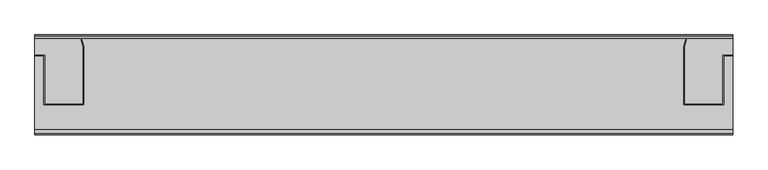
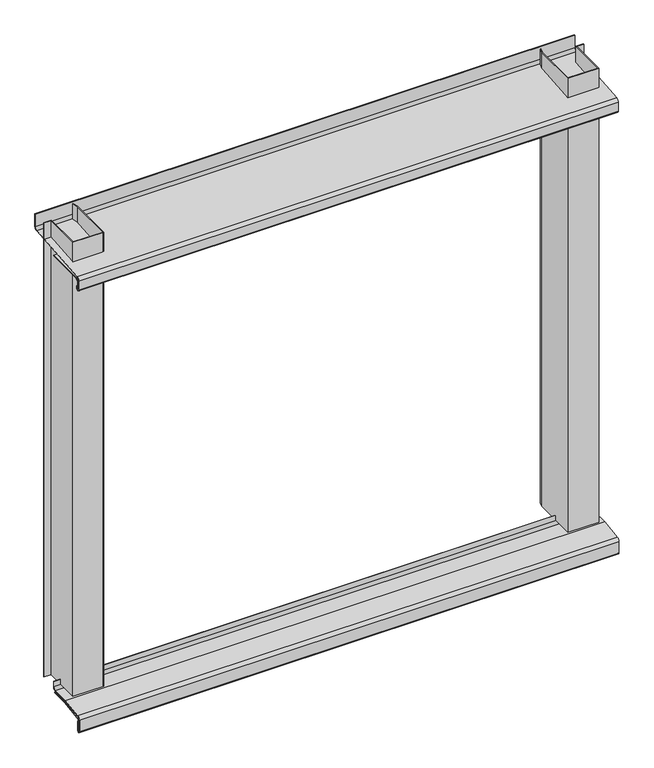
"""IFC4 building model written with IfcOpenShell, lengths in millimetres: plate geometry, Entourage de baie Horizontal : Entourage de baie Horizontal."""

import ifcopenshell
import ifcopenshell.guid

model = None  # the IFC model being written
_history = None  # IfcOwnerHistory: only IFC2X3 demands one
_inside = {}  # id of a spatial element -> (the spatial element, [elements in it])
_under = {}  # id of a project, library or spatial element -> (it, [spatial elements below it])
_declared = {}  # id of a project -> (the project, [libraries it declares])
_typed = {}  # id of a type object -> (the type object, [elements of that type])
_made_of = {}  # id of a material, layer set ... -> (it, [elements and type objects made of it])


def new_model(schema):
    """Start an empty IFC model of exactly this schema.

    Asked for "IFC4X3", IfcOpenShell would pick the latest addendum, in which some entities
    have other attributes; the version numbers below select the first issue.
    IFC2X3 requires an IfcOwnerHistory on every rooted entity: one is made here for all.
    """
    global model, _history
    if schema == "IFC4X3":
        model = ifcopenshell.file(schema_version=(4, 3, 0, 0))
    else:
        model = ifcopenshell.file(schema=schema)
    _inside.clear()
    _under.clear()
    _declared.clear()
    _typed.clear()
    _made_of.clear()
    _history = None
    if model.schema == "IFC2X3":
        org = make("IfcOrganization", Name="unknown")
        user = make(
            "IfcPersonAndOrganization",
            ThePerson=make("IfcPerson", FamilyName="unknown"),
            TheOrganization=org,
        )
        app = make(
            "IfcApplication",
            ApplicationDeveloper=org,
            Version="unknown",
            ApplicationFullName="unknown",
            ApplicationIdentifier="unknown",
        )
        _history = make(
            "IfcOwnerHistory",
            OwningUser=user,
            OwningApplication=app,
            ChangeAction="ADDED",
            CreationDate=0,
        )
    return model


def make(cls, **values):
    """One entity of the class cls with the attributes given. An attribute that is None is left unset."""
    return model.create_entity(
        cls, **{name: value for name, value in values.items() if value is not None}
    )


def rooted(cls, **values):
    """An entity with a GlobalId (a new one), such as an element, a storey or a relation."""
    return make(cls, GlobalId=ifcopenshell.guid.new(), OwnerHistory=_history, **values)


def si_unit(unit_type, name, prefix=None):
    """IfcSIUnit, for example si_unit("LENGTHUNIT", "METRE", prefix="MILLI")."""
    return make("IfcSIUnit", UnitType=unit_type, Prefix=prefix, Name=name)


def assignment(units):
    """IfcUnitAssignment: the units of a project."""
    return None if units is None else make("IfcUnitAssignment", Units=units)


def point(xyz):
    """IfcCartesianPoint."""
    return None if xyz is None else make("IfcCartesianPoint", Coordinates=xyz)


def direction(xyz):
    """IfcDirection."""
    return None if xyz is None else make("IfcDirection", DirectionRatios=xyz)


def frame(location, z_axis=None, x_axis=None):
    """IfcAxis2Placement3D, a coordinate frame: its origin and axes. An axis left out is left unset."""
    return make(
        "IfcAxis2Placement3D",
        Location=point(location),
        Axis=direction(z_axis),
        RefDirection=direction(x_axis),
    )


def frame_2d(location, x_axis=None):
    """IfcAxis2Placement2D, a coordinate frame in the plane: its origin and x axis."""
    return make(
        "IfcAxis2Placement2D", Location=point(location), RefDirection=direction(x_axis)
    )


def origin():
    """The frame at (0, 0, 0) with its axes left unset."""
    return frame((0.0, 0.0, 0.0))


def place(relative_to, where):
    """IfcLocalPlacement: puts the frame where relative to a parent placement (None: the world)."""
    return make(
        "IfcLocalPlacement", PlacementRelTo=relative_to, RelativePlacement=where
    )


def context(
    kind, dimensions, precision=None, world=None, true_north=None, identifier=None
):
    """IfcGeometricRepresentationContext, for example the 3D "Model" context."""
    return make(
        "IfcGeometricRepresentationContext",
        ContextIdentifier=identifier,
        ContextType=kind,
        CoordinateSpaceDimension=dimensions,
        Precision=precision,
        WorldCoordinateSystem=world,
        TrueNorth=true_north,
    )


def project(units=None, contexts=None):
    """IfcProject with its units and contexts."""
    return rooted(
        "IfcProject",
        Name="project",
        RepresentationContexts=contexts,
        UnitsInContext=assignment(units),
    )


def spatial(cls, under=None, at=None, **own):
    """A site, building, storey or space (cls), placed at a placement, below another one or the project."""
    s = rooted(cls, ObjectPlacement=at, **own)
    if under is not None:
        _under.setdefault(under.id(), (under, []))[1].append(s)
    return s


def polyline(points):
    """IfcPolyline through the points."""
    return make("IfcPolyline", Points=[point(p) for p in points])


def circle_curve(where, radius):
    """IfcCircle in the frame where."""
    return make("IfcCircle", Position=where, Radius=radius)


def trimmed(basis, trim1, trim2, sense, master):
    """IfcTrimmedCurve: the piece of a basis curve between two trims."""
    return make(
        "IfcTrimmedCurve",
        BasisCurve=basis,
        Trim1=trim1,
        Trim2=trim2,
        SenseAgreement=sense,
        MasterRepresentation=master,
    )


def segment(curve, same_sense, transition):
    """IfcCompositeCurveSegment."""
    return make(
        "IfcCompositeCurveSegment",
        Transition=transition,
        SameSense=same_sense,
        ParentCurve=curve,
    )


def composite_curve(segments, self_intersect=None):
    """IfcCompositeCurve: segments joined end to end."""
    return make("IfcCompositeCurve", Segments=segments, SelfIntersect=self_intersect)


def outline(outer, holes=None, kind="AREA"):
    """IfcArbitraryClosedProfileDef: a profile drawn as a closed curve; with holes, ...WithVoids."""
    if holes is None:
        return make("IfcArbitraryClosedProfileDef", ProfileType=kind, OuterCurve=outer)
    return make(
        "IfcArbitraryProfileDefWithVoids",
        ProfileType=kind,
        OuterCurve=outer,
        InnerCurves=holes,
    )


def extrude(swept, where, along, depth):
    """IfcExtrudedAreaSolid: the profile swept, set in the frame where, extruded along a direction by depth."""
    return make(
        "IfcExtrudedAreaSolid",
        SweptArea=swept,
        Position=where,
        ExtrudedDirection=direction(along),
        Depth=depth,
    )


def shape(context_of_items, identifier, shape_type, items):
    """IfcShapeRepresentation: the items that make up one representation, for example the "Body"."""
    return make(
        "IfcShapeRepresentation",
        ContextOfItems=context_of_items,
        RepresentationIdentifier=identifier,
        RepresentationType=shape_type,
        Items=items,
    )


def source(mapping_origin, context_of_items, identifier, shape_type, items):
    """IfcRepresentationMap: a shape defined once, which mapped items show again and again."""
    return make(
        "IfcRepresentationMap",
        MappingOrigin=mapping_origin,
        MappedRepresentation=shape(context_of_items, identifier, shape_type, items),
    )


def transform(
    local_origin,
    x_axis=None,
    y_axis=None,
    z_axis=None,
    scale=None,
    scale2=None,
    scale3=None,
    uniform=True,
):
    """IfcCartesianTransformationOperator3D, or its non-uniform kind. x_axis, y_axis, z_axis: its Axis1, 2, 3."""
    if uniform:
        return make(
            "IfcCartesianTransformationOperator3D",
            Axis1=direction(x_axis),
            Axis2=direction(y_axis),
            LocalOrigin=point(local_origin),
            Scale=scale,
            Axis3=direction(z_axis),
        )
    return make(
        "IfcCartesianTransformationOperator3DnonUniform",
        Axis1=direction(x_axis),
        Axis2=direction(y_axis),
        LocalOrigin=point(local_origin),
        Scale=scale,
        Axis3=direction(z_axis),
        Scale2=scale2,
        Scale3=scale3,
    )


def mapped(mapping_source, mapping_target):
    """IfcMappedItem: shows the shape of a source again, moved by a transform."""
    return make(
        "IfcMappedItem", MappingSource=mapping_source, MappingTarget=mapping_target
    )


def made_of(thing, what):
    """Note that an element or type object is made of a material, layer set ...; save() writes the relation."""
    if what is not None:
        _made_of.setdefault(what.id(), (what, []))[1].append(thing)
    return thing


def element(
    cls,
    number,
    at=None,
    inside=None,
    cuts=None,
    type_object=None,
    material=None,
    context=None,
    identifier="Body",
    shape_type=None,
    held_by="IfcProductDefinitionShape",
    body=None,
    shapes=None,
    **own,
):
    """One element of the class cls, such as IfcWall. Its Tag is "e" and its number.

    at: its placement. inside: the storey or other place that contains it. cuts: it is an
    opening in that element (IfcRelVoidsElement). A single representation is given by context,
    identifier, shape_type and body (its items); several are given by shapes. held_by: the class
    of the entity that holds the representations. save() writes the other relations.
    """
    e = rooted(cls, Tag="e%d" % number, ObjectPlacement=at, **own)
    if body is not None:
        shapes = [shape(context, identifier, shape_type, body)]
    if shapes is not None:
        e.Representation = make(held_by, Representations=shapes)
    if inside is not None:
        _inside.setdefault(inside.id(), (inside, []))[1].append(e)
    if cuts is not None:
        rooted(
            "IfcRelVoidsElement", RelatingBuildingElement=cuts, RelatedOpeningElement=e
        )
    if type_object is not None:
        _typed.setdefault(type_object.id(), (type_object, []))[1].append(e)
    return made_of(e, material)


def aggregate(whole, parts):
    """IfcRelAggregates: a whole, such as a stair, and the parts it consists of."""
    return rooted("IfcRelAggregates", RelatingObject=whole, RelatedObjects=parts)


def save(model, path):
    """Write the relations noted so far, then the file.

    IfcRelAggregates (storeys below a building ...), IfcRelContainedInSpatialStructure (elements
    in a storey), IfcRelDefinesByType, IfcRelAssociatesMaterial and IfcRelDeclares: one each for
    every whole, place, type object, material and project.
    """
    for whole, parts in _under.values():
        aggregate(whole, parts)
    for where, things in _inside.values():
        rooted(
            "IfcRelContainedInSpatialStructure",
            RelatedElements=things,
            RelatingStructure=where,
        )
    for kind, things in _typed.values():
        rooted("IfcRelDefinesByType", RelatedObjects=things, RelatingType=kind)
    for what, things in _made_of.values():
        rooted("IfcRelAssociatesMaterial", RelatedObjects=things, RelatingMaterial=what)
    for by, libraries in _declared.values():
        rooted("IfcRelDeclares", RelatingContext=by, RelatedDefinitions=libraries)
    model.write(path)


def plate_fa6cf1e6(model_context):
    return source(origin(), model_context, "Body", "SweptSolid", [
        extrude(outline(polyline([(430.0, 52.8408481), (432.6384309, 62.6876064), (433.6043568, 62.4287873), (431.0, 52.7091956), (431.0, -29.6803649), (486.2054608, -29.6803649), (486.2054608, 40.3366757), (500.0, 40.3366757), (499.7838213, 39.3196351), (487.2054608, 39.3196351), (487.2054608, -30.6803649), (430.0, -30.6803649), (430.0, 52.8408481)])), frame((0.0, 0.0, 11.2376633), z_axis=(0.0, 0.0, 1.0), x_axis=(1.0, 0.0, 0.0)), (0.0, 0.0, 1.0), 888.7623367),
        extrude(outline(polyline([(-430.0, 52.8408481), (-430.0, -30.6803649), (-487.2054608, -30.6803649), (-487.2054608, 39.3196351), (-499.7838213, 39.3196351), (-500.0, 40.3366757), (-486.2054608, 40.3366757), (-486.2054608, -29.6803649), (-431.0, -29.6803649), (-431.0, 52.7091956), (-433.6043568, 62.4287873), (-432.6384309, 62.6876064), (-430.0, 52.8408481)])), frame((0.0, 0.0, 11.0084951), z_axis=(0.0, 0.0, 1.0), x_axis=(1.0, 0.0, 0.0)), (0.0, 0.0, 1.0), 888.9915049),
        extrude(outline(composite_curve([segment(polyline([(-66.1651393, 859.1089935), (63.7554138, 870.475569)]), True, "CONTINUOUS"), segment(trimmed(circle_curve(frame_2d((63.3196351, 875.4565425)), 5.0), [point((63.7554138, 870.475569))], [point((68.3196351, 875.4565425))], True, "CARTESIAN"), True, "CONTINUOUS"), segment(polyline([(68.3196351, 875.4565425), (68.3196351, 900.0), (69.3196351, 900.0), (69.3196351, 875.2274597)]), True, "CONTINUOUS"), segment(trimmed(circle_curve(frame_2d((63.5696351, 875.2274597)), 5.75), [point((69.3196351, 875.2274597))], [point((64.0707806, 869.4993402))], False, "CARTESIAN"), True, "CONTINUOUS"), segment(polyline([(64.0707806, 869.4993402), (-65.8497725, 858.1327646)]), True, "CONTINUOUS"), segment(trimmed(circle_curve(frame_2d((-65.4139938, 853.1517912)), 5.0), [point((-65.8497725, 858.1327646))], [point((-70.4139938, 853.1517912))], True, "CARTESIAN"), True, "CONTINUOUS"), segment(polyline([(-70.4139938, 853.1517912), (-70.4139938, 835.9175452)]), True, "CONTINUOUS"), segment(trimmed(circle_curve(frame_2d((-68.4139938, 835.9175452)), 2.0), [point((-70.4139938, 835.9175452))], [point((-66.4139938, 835.9175452))], True, "CARTESIAN"), True, "CONTINUOUS"), segment(polyline([(-66.4139938, 835.9175452), (-66.4139938, 840.9175452), (-65.4139938, 840.9175452), (-65.4139938, 835.9175452)]), True, "CONTINUOUS"), segment(trimmed(circle_curve(frame_2d((-68.4139938, 835.9175452)), 3.0), [point((-65.4139938, 835.9175452))], [point((-71.4139938, 835.9175452))], False, "CARTESIAN"), True, "CONTINUOUS"), segment(polyline([(-71.4139938, 835.9175452), (-71.4139938, 853.3808739)]), True, "CONTINUOUS"), segment(trimmed(circle_curve(frame_2d((-65.6639938, 853.3808739)), 5.75), [point((-71.4139938, 853.3808739))], [point((-66.1651393, 859.1089935))], False, "CARTESIAN"), True, "CONTINUOUS")], self_intersect=False)), frame((-500.0, 0.0, 0.0), z_axis=(1.0, 0.0, 0.0), x_axis=(0.0, 1.0, 0.0)), (0.0, 0.0, 1.0), 1000.0),
        extrude(outline(composite_curve([segment(polyline([(-63.1639938, 854.8366451), (9.3196351, 854.8366451), (9.3196351, 853.8366451), (-62.9139938, 853.8366451)]), True, "CONTINUOUS"), segment(trimmed(circle_curve(frame_2d((-62.9139938, 848.8366451)), 5.0), [point((-62.9139938, 853.8366451))], [point((-67.9139938, 848.8366451))], True, "CARTESIAN"), True, "CONTINUOUS"), segment(polyline([(-67.9139938, 848.8366451), (-67.9139938, 838.8366451), (-68.9139938, 838.8366451), (-68.9139938, 849.0866451)]), True, "CONTINUOUS"), segment(trimmed(circle_curve(frame_2d((-63.1639938, 849.0866451)), 5.75), [point((-68.9139938, 849.0866451))], [point((-63.1639938, 854.8366451))], False, "CARTESIAN"), True, "CONTINUOUS")], self_intersect=False)), frame((-500.0, 0.0, 0.0), z_axis=(1.0, 0.0, 0.0), x_axis=(0.0, 1.0, 0.0)), (0.0, 0.0, 1.0), 1000.0),
        extrude(outline(composite_curve([segment(polyline([(3.5696351, 4.6075528), (-26.5969984, 4.6075528), (-68.4122928, -0.6347478)]), True, "CONTINUOUS"), segment(trimmed(circle_curve(frame_2d((-67.7903215, -5.5959122)), 5.0), [point((-68.4122928, -0.6347478))], [point((-72.7903215, -5.5959122))], True, "CARTESIAN"), True, "CONTINUOUS"), segment(polyline([(-72.7903215, -5.5959122), (-72.7903215, -27.7698921)]), True, "CONTINUOUS"), segment(trimmed(circle_curve(frame_2d((-71.2903215, -27.79899)), 1.5002822), [point((-72.7903215, -27.7698921))], [point((-69.7903215, -27.7698921))], True, "CARTESIAN"), True, "CONTINUOUS"), segment(polyline([(-69.7903215, -27.7698921), (-69.7903215, -10.2672814), (-68.7903215, -10.2672814), (-68.7903215, -27.7698921)]), True, "CONTINUOUS"), segment(trimmed(circle_curve(frame_2d((-71.2903215, -27.7672801)), 2.5000014), [point((-68.7903215, -27.7698921))], [point((-73.7903215, -27.7698921))], False, "CARTESIAN"), True, "CONTINUOUS"), segment(polyline([(-73.7903215, -27.7698921), (-73.7903215, -5.3414259)]), True, "CONTINUOUS"), segment(trimmed(circle_curve(frame_2d((-68.0403215, -5.3414259)), 5.75), [point((-73.7903215, -5.3414259))], [point((-68.7555885, 0.3639131))], False, "CARTESIAN"), True, "CONTINUOUS"), segment(polyline([(-68.7555885, 0.3639131), (-27.5969984, 5.5238839), (3.3196351, 5.5238839)]), True, "CONTINUOUS"), segment(trimmed(circle_curve(frame_2d((3.3196351, 10.5238839)), 5.0), [point((3.3196351, 5.5238839))], [point((8.3196351, 10.5238839))], True, "CARTESIAN"), True, "CONTINUOUS"), segment(polyline([(8.3196351, 10.5238839), (8.3196351, 20.5238839), (9.3196351, 20.5238839), (9.3196351, 10.3575528)]), True, "CONTINUOUS"), segment(trimmed(circle_curve(frame_2d((3.5696351, 10.3575528)), 5.75), [point((9.3196351, 10.3575528))], [point((3.5696351, 4.6075528))], False, "CARTESIAN"), True, "CONTINUOUS")], self_intersect=False)), frame((-500.0, 0.0, 0.0), z_axis=(1.0, 0.0, 0.0), x_axis=(0.0, 1.0, 0.0)), (0.0, 0.0, 1.0), 1000.0),
        extrude(outline(composite_curve([segment(polyline([(-66.9097726, -4.0976749), (-27.3447216, 0.9163312), (6.0621396, 0.9163312), (6.0621396, 0.0), (-26.3447216, 0.0), (-66.5654806, -5.0971027)]), True, "CONTINUOUS"), segment(trimmed(circle_curve(frame_2d((-65.9368675, -10.0574299)), 5.0), [point((-66.5654806, -5.0971027))], [point((-70.9368675, -10.0574299))], True, "CARTESIAN"), True, "CONTINUOUS"), segment(polyline([(-70.9368675, -10.0574299), (-70.9368675, -27.9990603), (-71.9368675, -27.9990603), (-71.9368675, -9.8020511)]), True, "CONTINUOUS"), segment(trimmed(circle_curve(frame_2d((-66.1868675, -9.8020511)), 5.75), [point((-71.9368675, -9.8020511))], [point((-66.9097726, -4.0976749))], False, "CARTESIAN"), True, "CONTINUOUS")], self_intersect=False)), frame((-500.0, 0.0, 0.0), z_axis=(1.0, 0.0, 0.0), x_axis=(0.0, 1.0, 0.0)), (0.0, 0.0, 1.0), 1000.0),
    ])


if __name__ == "__main__":
    model = new_model("IFC4")
    model_context = context("Model", 3, world=origin())
    ifc_project = project(units=[si_unit("LENGTHUNIT", "METRE", prefix="MILLI")], contexts=[model_context])
    site = spatial("IfcSite", under=ifc_project)
    building = spatial("IfcBuilding", under=site)
    placement = place(None, origin())
    plate_shape = plate_fa6cf1e6(model_context)
    element("IfcPlate", 1, ObjectType="Entourage de baie Horizontal : Entourage de baie Horizontal", at=placement, inside=building, context=model_context, shape_type="MappedRepresentation", body=[
        mapped(plate_shape, transform((0.0, 0.0, 0.0), x_axis=(1.0, 0.0, 0.0), y_axis=(0.0, 1.0, 0.0), z_axis=(0.0, 0.0, 1.0))),
    ])
    save(model, "model.ifc")
